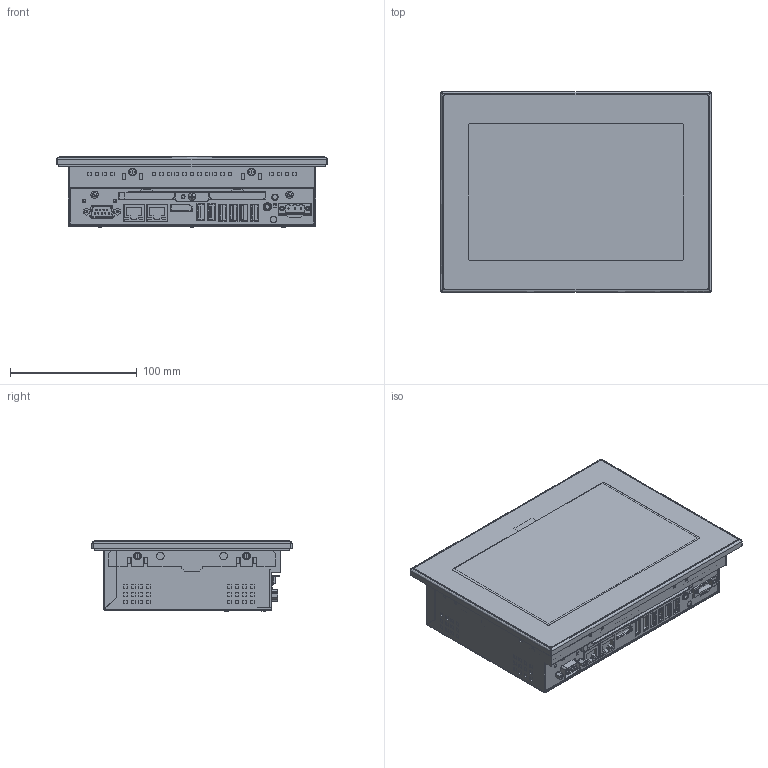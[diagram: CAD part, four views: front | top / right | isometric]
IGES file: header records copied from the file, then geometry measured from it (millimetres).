
Global section: file name: PT-M07WA-310; native system: Autodesk Inventor 2023; preprocessor: unknown; author: 195140; date: 20250115.110643; units: millimetre
Bounding box: 214 x 158 x 55.57 mm (x, y, z)
Surface area: 309764.7 mm2 (no closed solid volume)
Topology: 0 solids, 0 shells, 2345 faces, 14583 edges, 14515 vertices
Faces by surface type: bspline 2038, revolution 307
